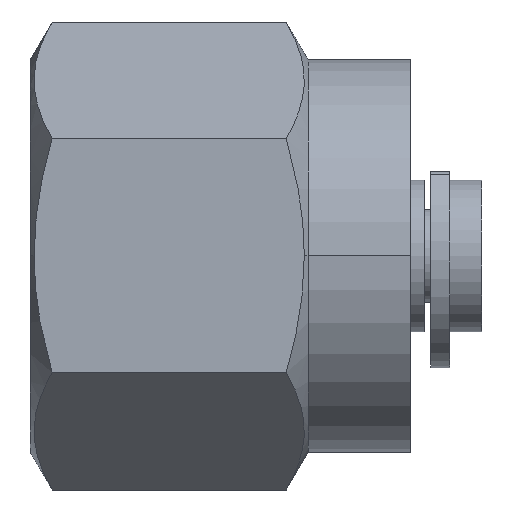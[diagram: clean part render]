
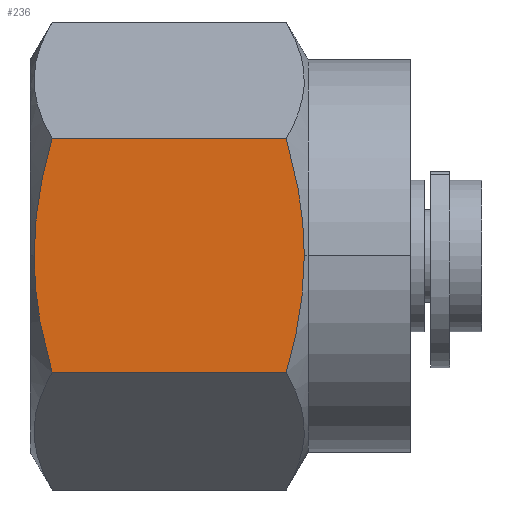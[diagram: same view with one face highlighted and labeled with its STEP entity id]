
A CAD part, top view. The second image highlights one B-rep face of the part: STEP entity #236.
In plain terms, the highlighted planar face has unit normal (0, 0, 1).
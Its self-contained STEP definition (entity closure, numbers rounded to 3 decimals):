
#35 = EDGE_CURVE ( 'NONE', #276, #231, #846, .T. ) ;
#231 = VERTEX_POINT ( 'NONE', #1376 ) ;
#232 = VERTEX_POINT ( 'NONE', #1501 ) ;
#233 = ORIENTED_EDGE ( 'NONE', *, *, #275, .F. ) ;
#234 = ORIENTED_EDGE ( 'NONE', *, *, #242, .F. ) ;
#236 = ADVANCED_FACE ( 'NONE', ( #1500 ), #1498, .F. ) ;
#237 = EDGE_LOOP ( 'NONE', ( #233, #234, #1745, #1748, #1746, #3112 ) ) ;
#241 = EDGE_CURVE ( 'NONE', #232, #231, #1531, .T. ) ;
#242 = EDGE_CURVE ( 'NONE', #324, #277, #1527, .T. ) ;
#275 = EDGE_CURVE ( 'NONE', #277, #276, #1616, .T. ) ;
#276 = VERTEX_POINT ( 'NONE', #1660 ) ;
#277 = VERTEX_POINT ( 'NONE', #1617 ) ;
#324 = VERTEX_POINT ( 'NONE', #1730 ) ;
#332 = VERTEX_POINT ( 'NONE', #1951 ) ;
#336 = EDGE_CURVE ( 'NONE', #332, #324, #1936, .T. ) ;
#846 = B_SPLINE_CURVE_WITH_KNOTS ( 'NONE', 3,
 ( #913, #912, #911, #910, #909, #908 ),
 .UNSPECIFIED., .F., .F.,
 ( 4, 2, 4 ),
 ( 0.01, 0.012, 0.014 ),
 .UNSPECIFIED. ) ;
#908 = CARTESIAN_POINT ( 'NONE',  ( 0.683, 3.666, 6.35 ) ) ;
#909 = CARTESIAN_POINT ( 'NONE',  ( 0.511, 3.073, 6.35 ) ) ;
#910 = CARTESIAN_POINT ( 'NONE',  ( 0.369, 2.473, 6.35 ) ) ;
#911 = CARTESIAN_POINT ( 'NONE',  ( 0.17, 1.249, 6.35 ) ) ;
#912 = CARTESIAN_POINT ( 'NONE',  ( 0.115, 0.621, 6.35 ) ) ;
#913 = CARTESIAN_POINT ( 'NONE',  ( 0.115, 0., 6.35 ) ) ;
#1376 = CARTESIAN_POINT ( 'NONE',  ( 0.683, 3.666, 6.35 ) ) ;
#1483 = DIRECTION ( 'NONE',  ( 0., 1., 0. ) ) ;
#1484 = DIRECTION ( 'NONE',  ( 0., 0., -1. ) ) ;
#1485 = CARTESIAN_POINT ( 'NONE',  ( 11.9, 3.666, 6.35 ) ) ;
#1498 = PLANE ( 'NONE',  #1499 ) ;
#1499 = AXIS2_PLACEMENT_3D ( 'NONE', #1485, #1484, #1483 ) ;
#1500 = FACE_OUTER_BOUND ( 'NONE', #237, .T. ) ;
#1501 = CARTESIAN_POINT ( 'NONE',  ( 8.017, 3.666, 6.35 ) ) ;
#1524 = DIRECTION ( 'NONE',  ( -1., 0., 0. ) ) ;
#1525 = VECTOR ( 'NONE', #1524, 1000. ) ;
#1526 = CARTESIAN_POINT ( 'NONE',  ( 11.9, -3.666, 6.35 ) ) ;
#1527 = LINE ( 'NONE', #1526, #1525 ) ;
#1528 = DIRECTION ( 'NONE',  ( -1., 0., 0. ) ) ;
#1529 = VECTOR ( 'NONE', #1528, 1000. ) ;
#1530 = CARTESIAN_POINT ( 'NONE',  ( 11.9, 3.666, 6.35 ) ) ;
#1531 = LINE ( 'NONE', #1530, #1529 ) ;
#1616 = B_SPLINE_CURVE_WITH_KNOTS ( 'NONE', 3,
 ( #1658, #1657, #1656, #1655, #1654, #1653 ),
 .UNSPECIFIED., .F., .F.,
 ( 4, 2, 4 ),
 ( 0.007, 0.009, 0.01 ),
 .UNSPECIFIED. ) ;
#1617 = CARTESIAN_POINT ( 'NONE',  ( 0.683, -3.666, 6.35 ) ) ;
#1653 = CARTESIAN_POINT ( 'NONE',  ( 0.115, 0., 6.35 ) ) ;
#1654 = CARTESIAN_POINT ( 'NONE',  ( 0.115, -0.62, 6.35 ) ) ;
#1655 = CARTESIAN_POINT ( 'NONE',  ( 0.169, -1.236, 6.35 ) ) ;
#1656 = CARTESIAN_POINT ( 'NONE',  ( 0.366, -2.459, 6.35 ) ) ;
#1657 = CARTESIAN_POINT ( 'NONE',  ( 0.51, -3.069, 6.35 ) ) ;
#1658 = CARTESIAN_POINT ( 'NONE',  ( 0.683, -3.666, 6.35 ) ) ;
#1660 = CARTESIAN_POINT ( 'NONE',  ( 0.115, 0., 6.35 ) ) ;
#1730 = CARTESIAN_POINT ( 'NONE',  ( 8.017, -3.666, 6.35 ) ) ;
#1745 = ORIENTED_EDGE ( 'NONE', *, *, #336, .F. ) ;
#1746 = ORIENTED_EDGE ( 'NONE', *, *, #241, .T. ) ;
#1748 = ORIENTED_EDGE ( 'NONE', *, *, #1759, .F. ) ;
#1759 = EDGE_CURVE ( 'NONE', #232, #332, #2675, .T. ) ;
#1928 = CARTESIAN_POINT ( 'NONE',  ( 8.017, -3.666, 6.35 ) ) ;
#1929 = CARTESIAN_POINT ( 'NONE',  ( 8.19, -3.069, 6.35 ) ) ;
#1930 = CARTESIAN_POINT ( 'NONE',  ( 8.334, -2.459, 6.35 ) ) ;
#1931 = CARTESIAN_POINT ( 'NONE',  ( 8.531, -1.236, 6.35 ) ) ;
#1932 = CARTESIAN_POINT ( 'NONE',  ( 8.585, -0.62, 6.35 ) ) ;
#1933 = CARTESIAN_POINT ( 'NONE',  ( 8.585, 0., 6.35 ) ) ;
#1936 = B_SPLINE_CURVE_WITH_KNOTS ( 'NONE', 3,
 ( #1933, #1932, #1931, #1930, #1929, #1928 ),
 .UNSPECIFIED., .F., .F.,
 ( 4, 2, 4 ),
 ( 0.025, 0.027, 0.029 ),
 .UNSPECIFIED. ) ;
#1951 = CARTESIAN_POINT ( 'NONE',  ( 8.585, 0., 6.35 ) ) ;
#2666 = CARTESIAN_POINT ( 'NONE',  ( 8.585, 0., 6.35 ) ) ;
#2667 = CARTESIAN_POINT ( 'NONE',  ( 8.585, 0.62, 6.35 ) ) ;
#2668 = CARTESIAN_POINT ( 'NONE',  ( 8.53, 1.249, 6.35 ) ) ;
#2669 = CARTESIAN_POINT ( 'NONE',  ( 8.331, 2.473, 6.35 ) ) ;
#2670 = CARTESIAN_POINT ( 'NONE',  ( 8.189, 3.073, 6.35 ) ) ;
#2671 = CARTESIAN_POINT ( 'NONE',  ( 8.017, 3.666, 6.35 ) ) ;
#2675 = B_SPLINE_CURVE_WITH_KNOTS ( 'NONE', 3,
 ( #2671, #2670, #2669, #2668, #2667, #2666 ),
 .UNSPECIFIED., .F., .F.,
 ( 4, 2, 4 ),
 ( 0.022, 0.024, 0.025 ),
 .UNSPECIFIED. ) ;
#3112 = ORIENTED_EDGE ( 'NONE', *, *, #35, .F. ) ;
